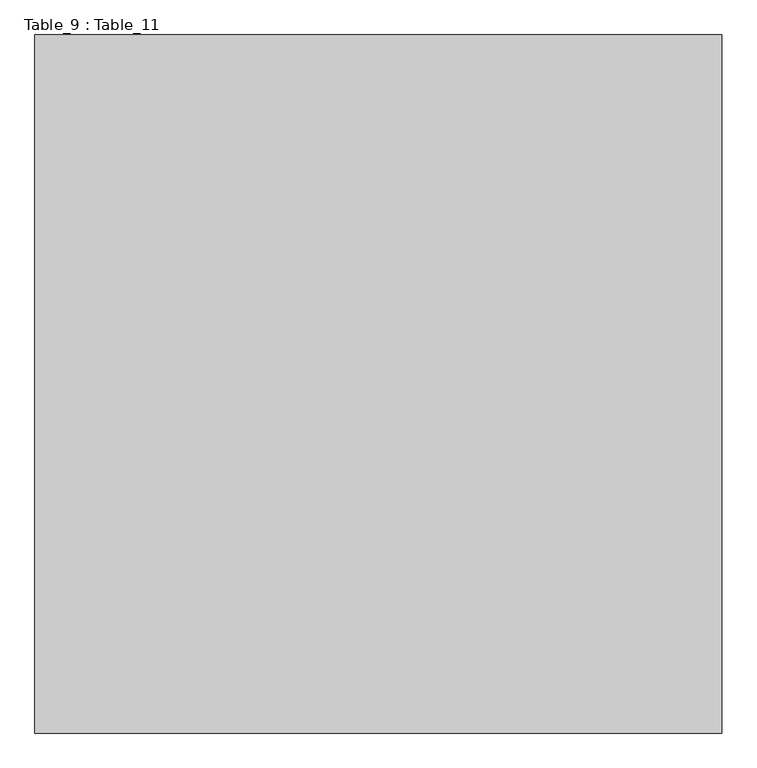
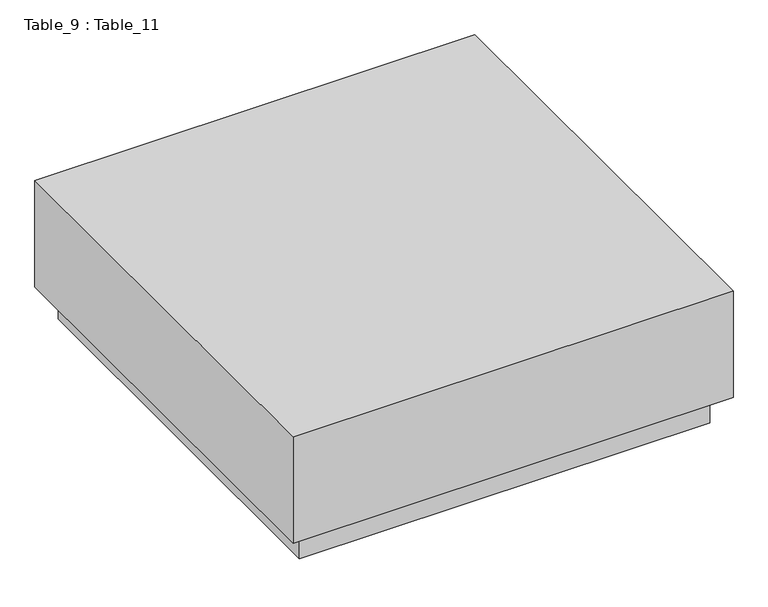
"""IFC4 building model written with IfcOpenShell, lengths in millimetres: furniture geometry, Table_9 : Table_11."""

from ifc_helpers import new_model, si_unit, frame, origin, place, context, project, spatial, polyline, outline, extrude, source, transform, mapped, element, save


def table_9_table_11_e1c2e713(model_context):
    return source(origin(), model_context, "Body", "SweptSolid", [
        extrude(outline(polyline([(287.4424622, 20552.9068615), (287.4424622, 19412.9068615), (-832.5575378, 19412.9068615), (-832.5575378, 20552.9068615), (287.4424622, 20552.9068615)])), frame((0.0, 0.0, 3400.0), z_axis=(0.0, 0.0, 1.0), x_axis=(1.0, 0.0, 0.0)), (0.0, 0.0, 1.0), 82.7700435),
        extrude(outline(polyline([(327.4424622, 20592.9068615), (327.4424622, 19372.9068615), (-872.5575378, 19372.9068615), (-872.5575378, 20592.9068615), (327.4424622, 20592.9068615)])), frame((0.0, 0.0, 3482.7700435), z_axis=(0.0, 0.0, 1.0), x_axis=(1.0, 0.0, 0.0)), (0.0, 0.0, 1.0), 307.1083543),
    ])


if __name__ == "__main__":
    model = new_model("IFC4")
    model_context = context("Model", 3, world=origin())
    ifc_project = project(units=[si_unit("LENGTHUNIT", "METRE", prefix="MILLI")], contexts=[model_context])
    site = spatial("IfcSite", under=ifc_project)
    building = spatial("IfcBuilding", under=site)
    placement = place(None, origin())
    table_9_table_11_shape = table_9_table_11_e1c2e713(model_context)
    element("IfcFurniture", 1, ObjectType="Table_9 : Table_11", at=placement, inside=building, context=model_context, shape_type="MappedRepresentation", body=[
        mapped(table_9_table_11_shape, transform((0.0, 0.0, 0.0), x_axis=(1.0, 0.0, 0.0), y_axis=(0.0, 1.0, 0.0), z_axis=(0.0, 0.0, 1.0))),
    ])
    save(model, "model.ifc")
